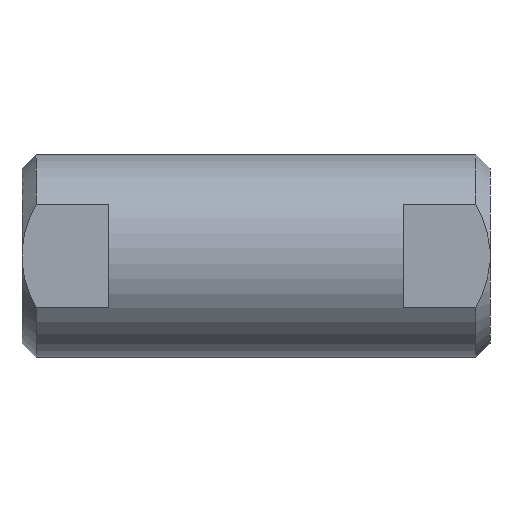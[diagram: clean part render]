
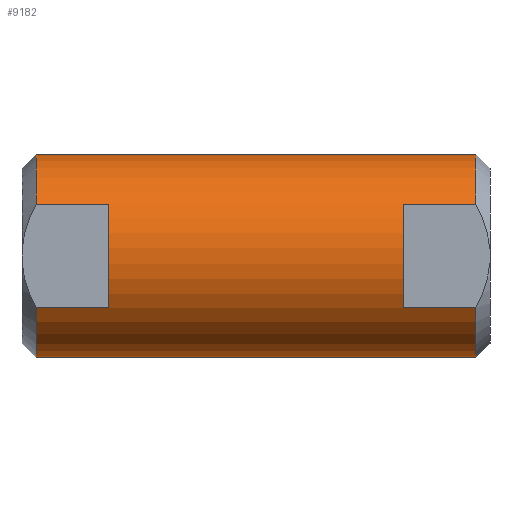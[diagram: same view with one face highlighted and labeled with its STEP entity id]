
A CAD part, front view. The second image highlights one B-rep face of the part: STEP entity #9182.
In plain terms, the highlighted cylindrical face has radius 11.011 mm (diameter 22.022 mm), a partial arc.
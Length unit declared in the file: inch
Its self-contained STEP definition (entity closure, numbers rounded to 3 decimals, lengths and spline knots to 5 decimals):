
#183 = CARTESIAN_POINT ( 'NONE',  ( 1.63, -0.3725, 0.22173 ) ) ;
#201 = CARTESIAN_POINT ( 'NONE',  ( 0.06, -0.3725, 0.22173 ) ) ;
#332 = VERTEX_POINT ( 'NONE', #183 ) ;
#390 = VERTEX_POINT ( 'NONE', #201 ) ;
#1172 = EDGE_CURVE ( 'NONE', #16785, #390, #14291, .T. ) ;
#1174 = EDGE_CURVE ( 'NONE', #1619, #1643, #14347, .T. ) ;
#1176 = EDGE_CURVE ( 'NONE', #16793, #1628, #14532, .T. ) ;
#1178 = EDGE_CURVE ( 'NONE', #1503, #332, #14676, .T. ) ;
#1180 = EDGE_CURVE ( 'NONE', #1569, #16790, #14580, .T. ) ;
#1189 = EDGE_CURVE ( 'NONE', #1643, #1569, #4535, .T. ) ;
#1192 = EDGE_CURVE ( 'NONE', #390, #1619, #4524, .T. ) ;
#1193 = EDGE_CURVE ( 'NONE', #332, #1521, #4547, .T. ) ;
#1202 = EDGE_CURVE ( 'NONE', #1521, #16505, #14671, .T. ) ;
#1208 = EDGE_CURVE ( 'NONE', #1628, #1503, #4595, .T. ) ;
#1492 = EDGE_LOOP ( 'NONE', ( #14096, #14103, #14104, #14102, #14097, #14014, #14100, #14099, #14101, #14095, #14108, #14098 ) ) ;
#1503 = VERTEX_POINT ( 'NONE', #3583 ) ;
#1521 = VERTEX_POINT ( 'NONE', #3599 ) ;
#1569 = VERTEX_POINT ( 'NONE', #3646 ) ;
#1619 = VERTEX_POINT ( 'NONE', #3695 ) ;
#1628 = VERTEX_POINT ( 'NONE', #3702 ) ;
#1643 = VERTEX_POINT ( 'NONE', #3716 ) ;
#3583 = CARTESIAN_POINT ( 'NONE',  ( 1.63, -0.3725, -0.22173 ) ) ;
#3599 = CARTESIAN_POINT ( 'NONE',  ( 1.94, -0.3725, 0.22173 ) ) ;
#3646 = CARTESIAN_POINT ( 'NONE',  ( 0.06, -0.3725, -0.22173 ) ) ;
#3695 = CARTESIAN_POINT ( 'NONE',  ( 0.37, -0.3725, 0.22173 ) ) ;
#3702 = CARTESIAN_POINT ( 'NONE',  ( 1.94, -0.3725, -0.22173 ) ) ;
#3716 = CARTESIAN_POINT ( 'NONE',  ( 0.37, -0.3725, -0.22173 ) ) ;
#4019 = CARTESIAN_POINT ( 'NONE',  ( 2., 0., 0. ) ) ;
#4022 = DIRECTION ( 'NONE',  ( -1., 0., 0. ) ) ;
#4023 = CYLINDRICAL_SURFACE ( 'NONE', #13347, 0.4335 ) ;
#4024 = FACE_OUTER_BOUND ( 'NONE', #1492, .T. ) ;
#4026 = DIRECTION ( 'NONE',  ( 0., 0., 1. ) ) ;
#4480 = CARTESIAN_POINT ( 'NONE',  ( 0.06, 0., 0. ) ) ;
#4481 = DIRECTION ( 'NONE',  ( 1., 0., 0. ) ) ;
#4482 = DIRECTION ( 'NONE',  ( 0., 0., 1. ) ) ;
#4488 = CARTESIAN_POINT ( 'NONE',  ( 0.37, 0., 0. ) ) ;
#4489 = DIRECTION ( 'NONE',  ( 1., 0., 0. ) ) ;
#4490 = DIRECTION ( 'NONE',  ( 0., 0., 1. ) ) ;
#4495 = CARTESIAN_POINT ( 'NONE',  ( 1.94, 0., 0. ) ) ;
#4496 = DIRECTION ( 'NONE',  ( -1., 0., 0. ) ) ;
#4497 = DIRECTION ( 'NONE',  ( 0., 0., 1. ) ) ;
#4501 = CARTESIAN_POINT ( 'NONE',  ( 1.63, 0., 0. ) ) ;
#4502 = DIRECTION ( 'NONE',  ( -1., 0., 0. ) ) ;
#4503 = DIRECTION ( 'NONE',  ( 0., 0., 1. ) ) ;
#4507 = CARTESIAN_POINT ( 'NONE',  ( 0.06, 0., 0. ) ) ;
#4508 = DIRECTION ( 'NONE',  ( 1., 0., 0. ) ) ;
#4509 = DIRECTION ( 'NONE',  ( 0., 0., 1. ) ) ;
#4524 = LINE ( 'NONE', #4545, #14658 ) ;
#4535 = LINE ( 'NONE', #4536, #14655 ) ;
#4536 = CARTESIAN_POINT ( 'NONE',  ( 2., -0.3725, -0.22173 ) ) ;
#4537 = DIRECTION ( 'NONE',  ( -1., 0., 0. ) ) ;
#4545 = CARTESIAN_POINT ( 'NONE',  ( 2., -0.3725, 0.22173 ) ) ;
#4546 = DIRECTION ( 'NONE',  ( 1., 0., 0. ) ) ;
#4547 = LINE ( 'NONE', #4548, #14390 ) ;
#4548 = CARTESIAN_POINT ( 'NONE',  ( 2., -0.3725, 0.22173 ) ) ;
#4549 = DIRECTION ( 'NONE',  ( 1., 0., 0. ) ) ;
#4579 = CARTESIAN_POINT ( 'NONE',  ( 1.94, 0., 0. ) ) ;
#4580 = DIRECTION ( 'NONE',  ( -1., 0., 0. ) ) ;
#4581 = DIRECTION ( 'NONE',  ( 0., 0., 1. ) ) ;
#4595 = LINE ( 'NONE', #4596, #14356 ) ;
#4596 = CARTESIAN_POINT ( 'NONE',  ( 2., -0.3725, -0.22173 ) ) ;
#4597 = DIRECTION ( 'NONE',  ( -1., 0., 0. ) ) ;
#8013 = CARTESIAN_POINT ( 'NONE',  ( 1.94, 0., 0.4335 ) ) ;
#8285 = CARTESIAN_POINT ( 'NONE',  ( 0.06, 0., 0.4335 ) ) ;
#8290 = CARTESIAN_POINT ( 'NONE',  ( 0.06, 0., -0.4335 ) ) ;
#8293 = CARTESIAN_POINT ( 'NONE',  ( 1.94, 0., -0.4335 ) ) ;
#9182 = ADVANCED_FACE ( 'NONE', ( #4024 ), #4023, .T. ) ;
#11396 = LINE ( 'NONE', #11397, #13025 ) ;
#11397 = CARTESIAN_POINT ( 'NONE',  ( 2., 0., 0.4335 ) ) ;
#11406 = DIRECTION ( 'NONE',  ( -1., 0., 0. ) ) ;
#12645 = EDGE_CURVE ( 'NONE', #16793, #16790, #15566, .T. ) ;
#13025 = VECTOR ( 'NONE', #11406, 39.37008 ) ;
#13155 = VECTOR ( 'NONE', #15568, 39.37008 ) ;
#13347 = AXIS2_PLACEMENT_3D ( 'NONE', #4019, #4022, #4026 ) ;
#13788 = EDGE_CURVE ( 'NONE', #16505, #16785, #11396, .T. ) ;
#14014 = ORIENTED_EDGE ( 'NONE', *, *, #1202, .T. ) ;
#14095 = ORIENTED_EDGE ( 'NONE', *, *, #1174, .T. ) ;
#14096 = ORIENTED_EDGE ( 'NONE', *, *, #12645, .F. ) ;
#14097 = ORIENTED_EDGE ( 'NONE', *, *, #1193, .T. ) ;
#14098 = ORIENTED_EDGE ( 'NONE', *, *, #1180, .T. ) ;
#14099 = ORIENTED_EDGE ( 'NONE', *, *, #1172, .T. ) ;
#14100 = ORIENTED_EDGE ( 'NONE', *, *, #13788, .T. ) ;
#14101 = ORIENTED_EDGE ( 'NONE', *, *, #1192, .T. ) ;
#14102 = ORIENTED_EDGE ( 'NONE', *, *, #1178, .T. ) ;
#14103 = ORIENTED_EDGE ( 'NONE', *, *, #1176, .T. ) ;
#14104 = ORIENTED_EDGE ( 'NONE', *, *, #1208, .T. ) ;
#14108 = ORIENTED_EDGE ( 'NONE', *, *, #1189, .T. ) ;
#14291 = CIRCLE ( 'NONE', #14543, 0.4335 ) ;
#14313 = AXIS2_PLACEMENT_3D ( 'NONE', #4579, #4580, #4581 ) ;
#14347 = CIRCLE ( 'NONE', #14577, 0.4335 ) ;
#14356 = VECTOR ( 'NONE', #4597, 39.37008 ) ;
#14374 = AXIS2_PLACEMENT_3D ( 'NONE', #4507, #4508, #4509 ) ;
#14390 = VECTOR ( 'NONE', #4549, 39.37008 ) ;
#14525 = AXIS2_PLACEMENT_3D ( 'NONE', #4495, #4496, #4497 ) ;
#14532 = CIRCLE ( 'NONE', #14525, 0.4335 ) ;
#14543 = AXIS2_PLACEMENT_3D ( 'NONE', #4480, #4481, #4482 ) ;
#14577 = AXIS2_PLACEMENT_3D ( 'NONE', #4488, #4489, #4490 ) ;
#14580 = CIRCLE ( 'NONE', #14374, 0.4335 ) ;
#14586 = AXIS2_PLACEMENT_3D ( 'NONE', #4501, #4502, #4503 ) ;
#14655 = VECTOR ( 'NONE', #4537, 39.37008 ) ;
#14658 = VECTOR ( 'NONE', #4546, 39.37008 ) ;
#14671 = CIRCLE ( 'NONE', #14313, 0.4335 ) ;
#14676 = CIRCLE ( 'NONE', #14586, 0.4335 ) ;
#15566 = LINE ( 'NONE', #15567, #13155 ) ;
#15567 = CARTESIAN_POINT ( 'NONE',  ( 2., 0., -0.4335 ) ) ;
#15568 = DIRECTION ( 'NONE',  ( -1., 0., 0. ) ) ;
#16505 = VERTEX_POINT ( 'NONE', #8013 ) ;
#16785 = VERTEX_POINT ( 'NONE', #8285 ) ;
#16790 = VERTEX_POINT ( 'NONE', #8290 ) ;
#16793 = VERTEX_POINT ( 'NONE', #8293 ) ;
